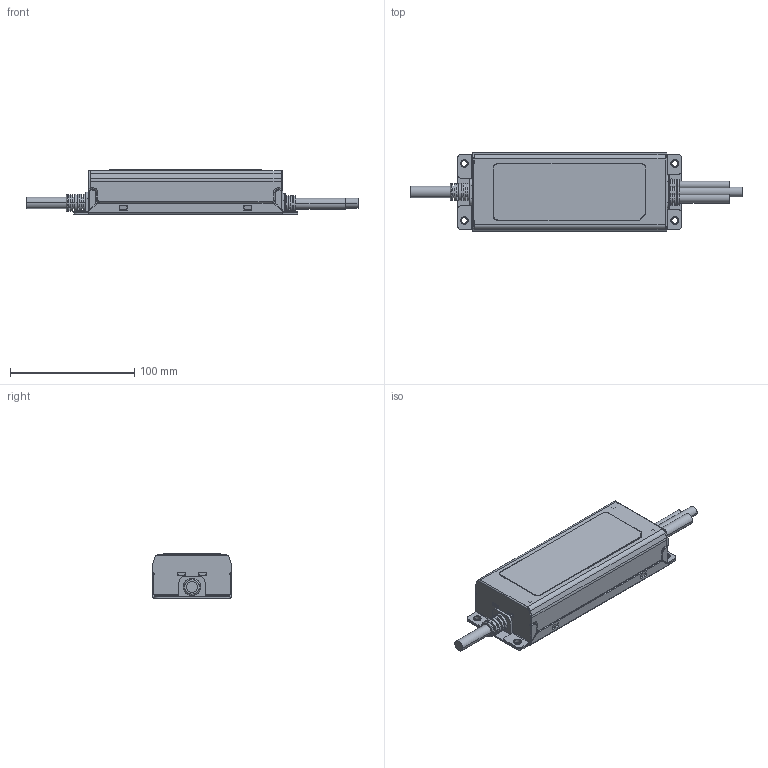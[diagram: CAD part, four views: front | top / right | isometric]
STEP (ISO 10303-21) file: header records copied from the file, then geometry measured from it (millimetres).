
FILE_DESCRIPTION((''),'2;1');
FILE_NAME('XLG-150_ASM','2019-04-26T22:49:38',('shalinice'),(''),'CREO PARAMETRIC BY PTC INC, 2016390','CREO PARAMETRIC BY PTC INC, 2016390','');
FILE_SCHEMA(('AUTOMOTIVE_DESIGN { 1 0 10303 214 1 1 1 1 }'));
Products named in the file (12): PCB_; 243A-D_; 243A-T_; VRZHU_; VRSAI_; OP_1_2_; IP_1_1_; OP_1_; OP2_; OP_1_1_1_; SR-NEW__ASM; XLG-150_ASM
Assembly tree (11 placements, depth 3):
  XLG-150_ASM
    PCB_
    243A-D_
    243A-T_
    VRZHU_
    VRSAI_
    SR-NEW__ASM
      OP_1_2_
      IP_1_1_
      OP_1_
      OP2_
      OP_1_1_1_
Bounding box: 266.8 x 63.13 x 35.5 mm (x, y, z)
Volume: 89805.2 mm3; surface area: 115683.9 mm2
Topology: 10 solids, 10 shells, 1162 faces, 3077 edges, 1991 vertices
Faces by surface type: plane 686, cylinder 343, torus 65, bspline 36, cone 26, sphere 6
Entity records: 83501 total; most frequent: CARTESIAN_POINT 43304, ORIENTED_EDGE 6142, DIRECTION 6112, PRESENTATION_STYLE_ASSIGNMENT 3230, STYLED_ITEM 3081, CURVE_STYLE 3071, EDGE_CURVE 3071, AXIS2_PLACEMENT_3D 2087
